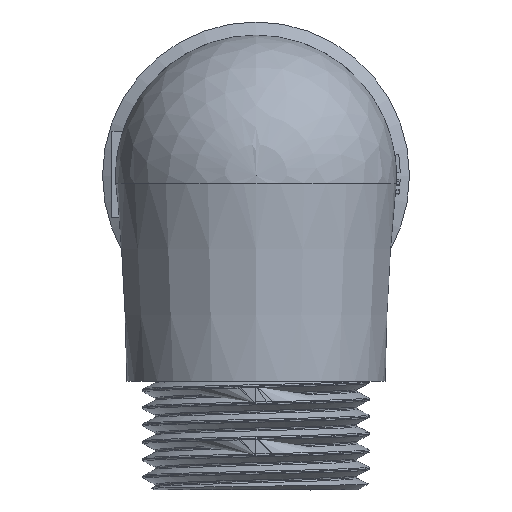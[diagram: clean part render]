
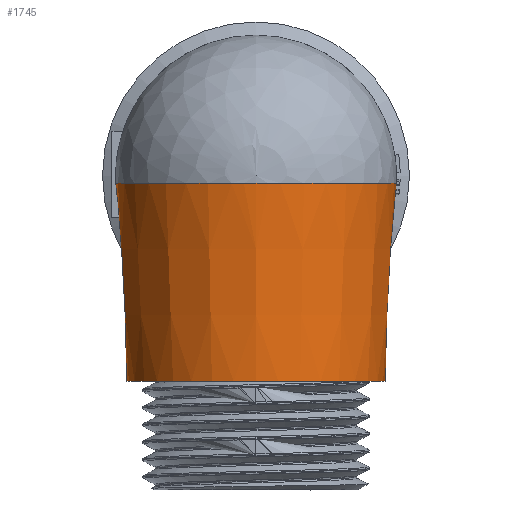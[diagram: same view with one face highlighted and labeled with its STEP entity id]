
A CAD part, front view. The second image highlights one B-rep face of the part: STEP entity #1745.
In plain terms, the highlighted conical face has half-angle 3.182 degrees and reference radius 17.985 mm.
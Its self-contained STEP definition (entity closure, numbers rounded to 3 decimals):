
#30=CONICAL_SURFACE('',#1899,17.986,0.056);
#183=ELLIPSE('',#1900,26.537,18.75);
#184=ELLIPSE('',#1902,26.537,18.75);
#268=LINE('',#2789,#379);
#379=VECTOR('',#2224,17.986);
#486=FACE_OUTER_BOUND('',#586,.T.);
#586=EDGE_LOOP('',(#1370,#1371,#1372,#1373,#1374,#1375,#1376));
#684=CIRCLE('',#1901,18.721);
#685=CIRCLE('',#1903,17.25);
#686=CIRCLE('',#1904,17.25);
#809=VERTEX_POINT('',#2782);
#810=VERTEX_POINT('',#2783);
#811=VERTEX_POINT('',#2785);
#812=VERTEX_POINT('',#2788);
#813=VERTEX_POINT('',#2790);
#1028=EDGE_CURVE('',#809,#810,#183,.T.);
#1029=EDGE_CURVE('',#811,#809,#684,.T.);
#1030=EDGE_CURVE('',#810,#811,#184,.T.);
#1031=EDGE_CURVE('',#810,#812,#268,.T.);
#1032=EDGE_CURVE('',#812,#813,#685,.T.);
#1033=EDGE_CURVE('',#813,#812,#686,.T.);
#1370=ORIENTED_EDGE('',*,*,#1028,.F.);
#1371=ORIENTED_EDGE('',*,*,#1029,.F.);
#1372=ORIENTED_EDGE('',*,*,#1030,.F.);
#1373=ORIENTED_EDGE('',*,*,#1031,.T.);
#1374=ORIENTED_EDGE('',*,*,#1032,.T.);
#1375=ORIENTED_EDGE('',*,*,#1033,.T.);
#1376=ORIENTED_EDGE('',*,*,#1031,.F.);
#1745=ADVANCED_FACE('',(#486),#30,.T.);
#1899=AXIS2_PLACEMENT_3D('',#2781,#2216,#2217);
#1900=AXIS2_PLACEMENT_3D('',#2784,#2218,#2219);
#1901=AXIS2_PLACEMENT_3D('',#2786,#2220,#2221);
#1902=AXIS2_PLACEMENT_3D('',#2787,#2222,#2223);
#1903=AXIS2_PLACEMENT_3D('',#2791,#2225,#2226);
#1904=AXIS2_PLACEMENT_3D('',#2792,#2227,#2228);
#2216=DIRECTION('center_axis',(0.,0.,1.));
#2217=DIRECTION('ref_axis',(0.,-1.,0.));
#2218=DIRECTION('center_axis',(0.,0.707,0.708));
#2219=DIRECTION('ref_axis',(0.,0.708,-0.707));
#2220=DIRECTION('center_axis',(0.,0.,1.));
#2221=DIRECTION('ref_axis',(0.,-1.,0.));
#2222=DIRECTION('center_axis',(0.,0.707,0.708));
#2223=DIRECTION('ref_axis',(0.,0.708,-0.707));
#2224=DIRECTION('',(0.,-0.056,-0.998));
#2225=DIRECTION('center_axis',(0.,0.,1.));
#2226=DIRECTION('ref_axis',(1.,0.,0.));
#2227=DIRECTION('center_axis',(0.,0.,1.));
#2228=DIRECTION('ref_axis',(1.,0.,0.));
#2781=CARTESIAN_POINT('Origin',(0.,-32.,-14.27));
#2782=CARTESIAN_POINT('',(18.721,-32.,-1.041));
#2783=CARTESIAN_POINT('',(0.,-14.264,-18.75));
#2784=CARTESIAN_POINT('Origin',(0.,-33.042,0.));
#2785=CARTESIAN_POINT('',(-18.721,-32.,-1.041));
#2786=CARTESIAN_POINT('Origin',(0.,-32.,-1.041));
#2787=CARTESIAN_POINT('Origin',(0.,-33.042,0.));
#2788=CARTESIAN_POINT('',(0.,-14.75,-27.5));
#2789=CARTESIAN_POINT('',(0.,-14.014,-14.27));
#2790=CARTESIAN_POINT('',(0.,-49.25,-27.5));
#2791=CARTESIAN_POINT('Origin',(0.,-32.,-27.5));
#2792=CARTESIAN_POINT('Origin',(0.,-32.,-27.5));
